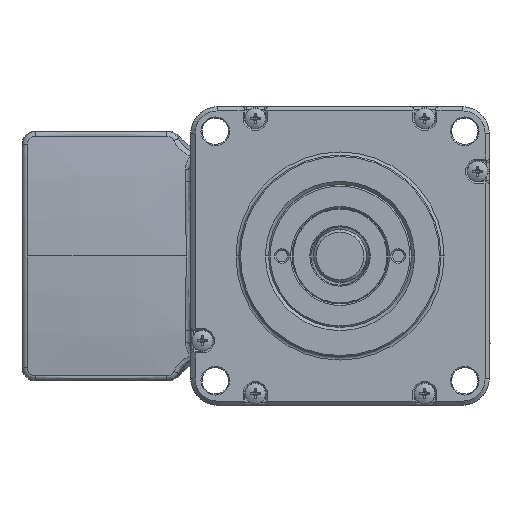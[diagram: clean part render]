
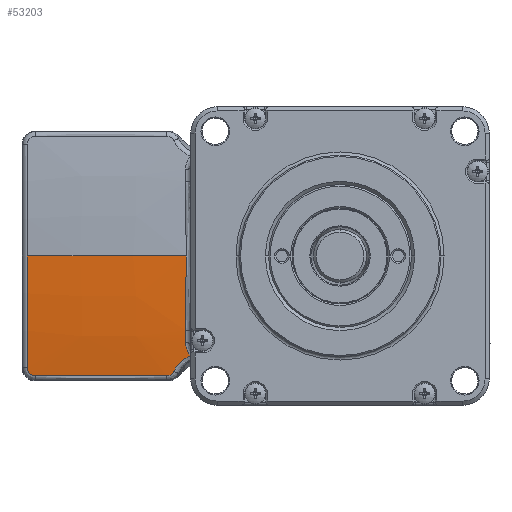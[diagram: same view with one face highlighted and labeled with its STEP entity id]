
A CAD part, left-side view. The second image highlights one B-rep face of the part: STEP entity #53203.
In plain terms, the highlighted free-form (B-spline) face has degree [3, 3] with [4, 4] control points.
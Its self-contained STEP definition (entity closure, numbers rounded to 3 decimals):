
#19493=CARTESIAN_POINT('',(-57.607,-22.648,
-45.879));
#19508=CARTESIAN_POINT('',(-32.757,-22.638,
-44.815));
#19519=CARTESIAN_POINT('',(-31.417,-21.806,
-44.708));
#19530=CARTESIAN_POINT('',(-28.259,-18.848,
-44.392));
#19562=CARTESIAN_POINT('',(-29.064,0.,
-43.501));
#19563=CARTESIAN_POINT('',(-29.064,-1.172,
-43.501));
#19564=CARTESIAN_POINT('',(-29.078,-3.517,
-43.522));
#19565=CARTESIAN_POINT('',(-29.124,-7.034,
-43.615));
#19566=CARTESIAN_POINT('',(-29.177,-10.55,
-43.77));
#19567=CARTESIAN_POINT('',(-29.198,-12.892,
-43.915));
#19568=CARTESIAN_POINT('',(-29.198,-14.063,
-43.998));
#19573=CARTESIAN_POINT('',(-29.198,-16.419,
-44.178));
#19574=CARTESIAN_POINT('',(-29.198,-16.652,
-44.197));
#19575=CARTESIAN_POINT('',(-29.164,-16.997,
-44.226));
#19576=CARTESIAN_POINT('',(-29.054,-17.448,
-44.265));
#19577=CARTESIAN_POINT('',(-28.939,-17.778,
-44.294));
#19578=CARTESIAN_POINT('',(-28.793,-18.093,
-44.323));
#19579=CARTESIAN_POINT('',(-28.58,-18.458,
-44.356));
#19580=CARTESIAN_POINT('',(-28.389,-18.705,
-44.379));
#19581=CARTESIAN_POINT('',(-28.259,-18.848,
-44.392));
#19586=CARTESIAN_POINT('',(-28.259,-18.848,
-44.392));
#19587=CARTESIAN_POINT('',(-28.606,-18.989,
-44.406));
#19588=CARTESIAN_POINT('',(-29.097,-19.246,
-44.431));
#19589=CARTESIAN_POINT('',(-29.695,-19.671,
-44.475));
#19590=CARTESIAN_POINT('',(-30.115,-20.032,
-44.513));
#19591=CARTESIAN_POINT('',(-30.503,-20.432,
-44.555));
#19592=CARTESIAN_POINT('',(-30.85,-20.86,
-44.602));
#19593=CARTESIAN_POINT('',(-31.156,-21.317,
-44.653));
#19594=CARTESIAN_POINT('',(-31.335,-21.64,
-44.689));
#19595=CARTESIAN_POINT('',(-31.417,-21.806,
-44.708));
#19600=CARTESIAN_POINT('',(-31.417,-21.806,
-44.708));
#19601=CARTESIAN_POINT('',(-31.479,-21.931,
-44.723));
#19602=CARTESIAN_POINT('',(-31.595,-22.101,
-44.742));
#19603=CARTESIAN_POINT('',(-31.797,-22.295,
-44.766));
#19604=CARTESIAN_POINT('',(-31.964,-22.416,
-44.781));
#19605=CARTESIAN_POINT('',(-32.148,-22.514,
-44.794));
#19606=CARTESIAN_POINT('',(-32.344,-22.585,
-44.804));
#19607=CARTESIAN_POINT('',(-32.547,-22.628,
-44.811));
#19608=CARTESIAN_POINT('',(-32.687,-22.638,
-44.814));
#19609=CARTESIAN_POINT('',(-32.757,-22.638,
-44.815));
#19614=CARTESIAN_POINT('',(-32.757,-22.638,
-44.815));
#19615=CARTESIAN_POINT('',(-41.051,-22.639,
-44.91));
#19616=CARTESIAN_POINT('',(-49.335,-22.642,
-45.265));
#19617=CARTESIAN_POINT('',(-57.607,-22.648,
-45.879));
#19622=CARTESIAN_POINT('',(-57.607,-22.648,
-45.879));
#19623=CARTESIAN_POINT('',(-57.707,-22.648,
-45.887));
#19624=CARTESIAN_POINT('',(-57.853,-22.633,
-45.896));
#19625=CARTESIAN_POINT('',(-58.044,-22.585,
-45.905));
#19626=CARTESIAN_POINT('',(-58.231,-22.518,
-45.911));
#19627=CARTESIAN_POINT('',(-58.447,-22.403,
-45.914));
#19628=CARTESIAN_POINT('',(-58.64,-22.244,
-45.911));
#19629=CARTESIAN_POINT('',(-58.772,-22.098,
-45.905));
#19630=CARTESIAN_POINT('',(-58.86,-21.979,
-45.898));
#19631=CARTESIAN_POINT('',(-58.936,-21.851,
-45.89));
#19632=CARTESIAN_POINT('',(-59.02,-21.673,
-45.877));
#19633=CARTESIAN_POINT('',(-59.091,-21.436,
-45.857));
#19634=CARTESIAN_POINT('',(-59.111,-21.238,
-45.837));
#19635=CARTESIAN_POINT('',(-59.111,-21.14,
-45.826));
#19640=CARTESIAN_POINT('',(-59.103,0.,-243.));
#19641=DIRECTION('',(-1.,0.,0.));
#19642=DIRECTION('',(0.,-0.107,0.994));
#19643=AXIS2_PLACEMENT_3D('',#19640,#19641,#19642);
#20371=CARTESIAN_POINT('',(-29.198,0.,-243.));
#20372=DIRECTION('',(-1.,0.,0.));
#20373=DIRECTION('',(0.,-0.082,0.997));
#20374=AXIS2_PLACEMENT_3D('',#20371,#20372,#20373);
#20587=CARTESIAN_POINT('',(-28.2,0.,-443.5));
#20588=DIRECTION('',(0.,-1.,0.));
#20589=DIRECTION('',(-0.002,0.,1.));
#20590=AXIS2_PLACEMENT_3D('',#20587,#20588,#20589);
#39750=CARTESIAN_POINT('',(-59.103,0.,
-44.696));
#39751=VERTEX_POINT('',#39750);
#39752=CARTESIAN_POINT('',(-59.103,-21.14,
-45.826));
#39753=VERTEX_POINT('',#39752);
#39757=VERTEX_POINT('',#19493);
#39759=VERTEX_POINT('',#19508);
#39761=VERTEX_POINT('',#19519);
#39764=VERTEX_POINT('',#19530);
#39766=CARTESIAN_POINT('',(-29.198,-16.419,
-44.178));
#39767=VERTEX_POINT('',#39766);
#39768=VERTEX_POINT('',#19562);
#39769=VERTEX_POINT('',#19568);
#53172=CARTESIAN_POINT('',(-27.641,-23.224,
-44.857));
#53173=CARTESIAN_POINT('',(-38.35,-23.226,
-44.842));
#53174=CARTESIAN_POINT('',(-49.051,-23.178,
-45.254));
#53175=CARTESIAN_POINT('',(-59.726,-23.08,
-46.092));
#53176=CARTESIAN_POINT('',(-27.641,-15.362,
-43.935));
#53177=CARTESIAN_POINT('',(-38.35,-15.364,
-43.92));
#53178=CARTESIAN_POINT('',(-49.051,-15.332,
-44.334));
#53179=CARTESIAN_POINT('',(-59.726,-15.267,
-45.177));
#53180=CARTESIAN_POINT('',(-27.641,-7.459,
-43.483));
#53181=CARTESIAN_POINT('',(-38.35,-7.46,
-43.468));
#53182=CARTESIAN_POINT('',(-49.051,-7.444,
-43.883));
#53183=CARTESIAN_POINT('',(-59.726,-7.413,
-44.727));
#53184=CARTESIAN_POINT('',(-27.641,0.456,
-43.501));
#53185=CARTESIAN_POINT('',(-38.35,0.456,
-43.486));
#53186=CARTESIAN_POINT('',(-49.051,0.456,
-43.901));
#53187=CARTESIAN_POINT('',(-59.726,0.454,
-44.745));
#53188=(BOUNDED_SURFACE()B_SPLINE_SURFACE(3,3,((#53172,#53173,#53174,#53175),(
#53176,#53177,#53178,#53179),(#53180,#53181,#53182,#53183),(#53184,#53185,
#53186,#53187)),.UNSPECIFIED.,.F.,.F.,.F.)B_SPLINE_SURFACE_WITH_KNOTS((4,4),(4,
4),(0.,1.),(0.,1.),.UNSPECIFIED.)GEOMETRIC_REPRESENTATION_ITEM()RATIONAL_B_SPLINE_SURFACE(((1.001,1.001,1.001,
1.001),(1.,1.,1.,
1.),(1.,1.,1.,
1.),(1.001,1.001,1.001,
1.001)))REPRESENTATION_ITEM('')SURFACE());
#53190=ORIENTED_EDGE('',*,*,#53189,.T.);
#53192=ORIENTED_EDGE('',*,*,#53191,.F.);
#53193=ORIENTED_EDGE('',*,*,#53150,.T.);
#53194=ORIENTED_EDGE('',*,*,#52864,.T.);
#53195=ORIENTED_EDGE('',*,*,#52772,.T.);
#53196=ORIENTED_EDGE('',*,*,#52639,.T.);
#53197=ORIENTED_EDGE('',*,*,#52600,.T.);
#53198=ORIENTED_EDGE('',*,*,#52451,.T.);
#53200=ORIENTED_EDGE('',*,*,#53199,.F.);
#53201=EDGE_LOOP('',(#53190,#53192,#53193,#53194,#53195,#53196,#53197,#53198,
#53200));
#53202=FACE_OUTER_BOUND('',#53201,.F.);
#19569=B_SPLINE_CURVE_WITH_KNOTS('',3,(#19562,#19563,#19564,#19565,#19566,
#19567,#19568),.UNSPECIFIED.,.F.,.F.,(4,1,1,1,4),(0.,0.25,
0.5,0.75,1.),.UNSPECIFIED.);
#19582=B_SPLINE_CURVE_WITH_KNOTS('',3,(#19573,#19574,#19575,#19576,#19577,
#19578,#19579,#19580,#19581),.UNSPECIFIED.,.F.,.F.,(4,1,1,1,1,1,4),(0.,
0.261,0.392,0.522,0.653,
0.783,1.),.UNSPECIFIED.);
#19596=B_SPLINE_CURVE_WITH_KNOTS('',3,(#19586,#19587,#19588,#19589,#19590,
#19591,#19592,#19593,#19594,#19595),.UNSPECIFIED.,.F.,.F.,(4,1,1,1,1,1,1,4),(
0.,0.25,0.375,0.5,0.625,
0.75,0.875,1.),.UNSPECIFIED.);
#19610=B_SPLINE_CURVE_WITH_KNOTS('',3,(#19600,#19601,#19602,#19603,#19604,
#19605,#19606,#19607,#19608,#19609),.UNSPECIFIED.,.F.,.F.,(4,1,1,1,1,1,1,4),(
0.,0.25,0.375,0.5,0.625,
0.75,0.875,1.),.UNSPECIFIED.);
#19618=B_SPLINE_CURVE_WITH_KNOTS('',3,(#19614,#19615,#19616,#19617),
.UNSPECIFIED.,.F.,.F.,(4,4),(0.,1.),.UNSPECIFIED.);
#19636=B_SPLINE_CURVE_WITH_KNOTS('',3,(#19622,#19623,#19624,#19625,#19626,
#19627,#19628,#19629,#19630,#19631,#19632,#19633,#19634,#19635),.UNSPECIFIED.,
.F.,.F.,(4,1,1,1,1,1,1,1,1,1,1,4),(0.,0.125,0.188,
0.25,0.375,0.5,0.563,
0.625,0.688,0.75,0.875,1.),
.UNSPECIFIED.);
#19644=CIRCLE('',#19643,198.304);
#20375=CIRCLE('',#20374,199.499);
#20591=CIRCLE('',#20590,400.);
#52451=EDGE_CURVE('',#39753,#39751,#19644,.T.);
#52600=EDGE_CURVE('',#39757,#39753,#19636,.T.);
#52639=EDGE_CURVE('',#39759,#39757,#19618,.T.);
#52772=EDGE_CURVE('',#39761,#39759,#19610,.T.);
#52864=EDGE_CURVE('',#39764,#39761,#19596,.T.);
#53150=EDGE_CURVE('',#39767,#39764,#19582,.T.);
#53189=EDGE_CURVE('',#39768,#39769,#19569,.T.);
#53191=EDGE_CURVE('',#39767,#39769,#20375,.T.);
#53199=EDGE_CURVE('',#39768,#39751,#20591,.T.);
#53203=ADVANCED_FACE('',(#53202),#53188,.T.);
